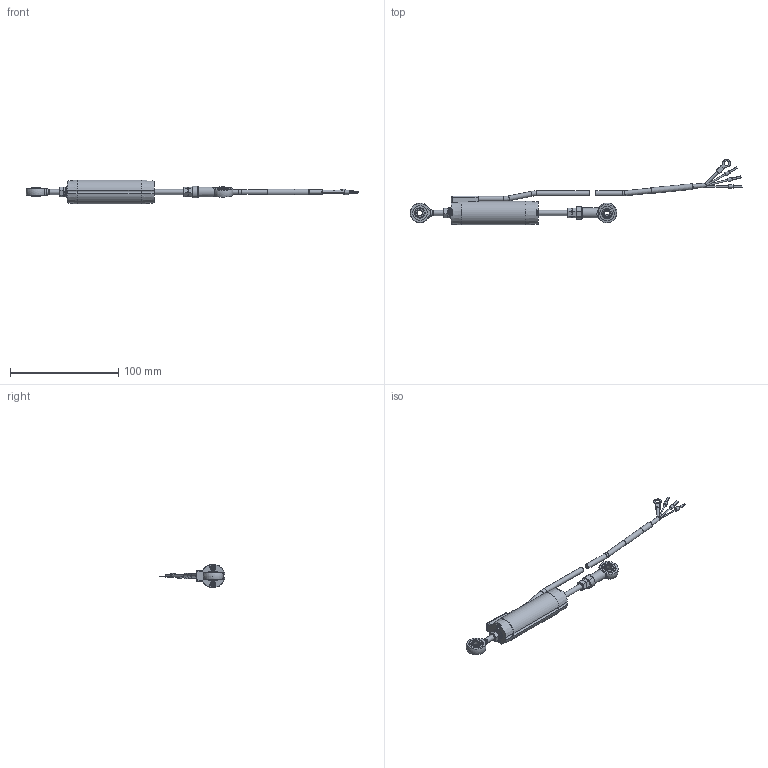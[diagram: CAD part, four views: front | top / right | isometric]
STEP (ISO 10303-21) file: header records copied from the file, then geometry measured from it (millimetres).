
FILE_DESCRIPTION(/* description */ (''),/* implementation_level */ '2;1');
FILE_NAME(/* name */ 'D:\LPPS-22 CAD Drawings\3D\LPPS-22-025\LPPS-22-025 SW.stp',/* time_stamp */ '2021-10-22T12:22:32-04:00',/* author */ ('Justin'),/* organization */ (''),/* preprocessor_version */ 'ST-DEVELOPER v18.1',/* originating_system */ 'Autodesk Inventor 2022',/* authorisation */ '');
FILE_SCHEMA (('AUTOMOTIVE_DESIGN { 1 0 10303 214 3 1 1 }'));
Products named in the file (4): LPPS-22-025 SW; LPPS-22-025_Cable Simplify; LPPS-22-025_Housing Simplify; LPPS-22-025_Housing Simplify_1
Assembly tree (3 placements, depth 2):
  LPPS-22-025 SW
    LPPS-22-025_Cable Simplify
    LPPS-22-025_Housing Simplify
    LPPS-22-025_Housing Simplify_1
Bounding box: 306.05 x 60.43 x 21.96 mm (x, y, z)
Volume: 31861.4 mm3; surface area: 28014.3 mm2
Topology: 30 solids, 30 shells, 757 faces, 2739 edges, 2048 vertices
Faces by surface type: cylinder 349, plane 202, cone 142, bspline 28, torus 22, sphere 14
Full cylindrical faces by diameter (mm): 1.27 x3, 1.48 x96, 1.575 x2, 2 x92, 2.286 x5, 3.175 x5, 3.81 x1, 3.881 x1, 4 x4, 4.134 x1, 4.191 x1, 4.342 x12, 4.572 x5, 4.826 x3, 4.851 x1, 4.953 x1, 5 x15, 5.004 x2, 5.08 x1, 5.207 x1, 5.3 x1, 6.35 x2, 9.144 x1, 10 x1, 12.675 x4, 12.7 x1, 15.875 x2, 17.78 x1
Entity records: 45085 total; most frequent: CARTESIAN_POINT 23734, ORIENTED_EDGE 5444, DIRECTION 3368, EDGE_CURVE 2722, VERTEX_POINT 2048, AXIS2_PLACEMENT_3D 1373, EDGE_LOOP 826, STYLED_ITEM 787
